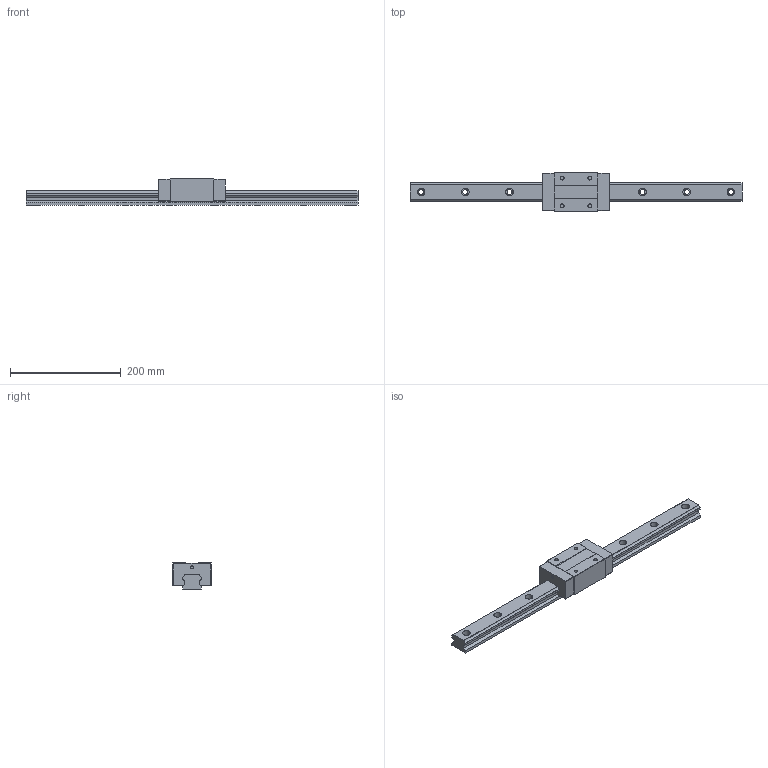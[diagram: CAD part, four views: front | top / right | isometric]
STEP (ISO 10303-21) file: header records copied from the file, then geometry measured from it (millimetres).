
FILE_DESCRIPTION (( 'STEP AP203' ), '1' );
FILE_NAME ('TRS35VN-WW-§ï.STEP', '2023-08-31T06:45:43', ( '' ), ( '' ), 'SwSTEP 2.0', 'SolidWorks 2022', '' );
FILE_SCHEMA (( 'CONFIG_CONTROL_DESIGN' ));
Length unit declared in the file: millimetre
Products named in the file (1): TRS35VN-WW-改
Bounding box: 600 x 70 x 48 mm (x, y, z)
Volume: 715262.1 mm3; surface area: 113706.9 mm2
Topology: 1 solids, 1 shells, 164 faces, 448 edges, 296 vertices
Faces by surface type: plane 84, cylinder 80
Entity records: 5345 total; most frequent: DIRECTION 942, CARTESIAN_POINT 909, ORIENTED_EDGE 896, EDGE_CURVE 448, AXIS2_PLACEMENT_3D 329, VERTEX_POINT 296, LINE 284, VECTOR 284
